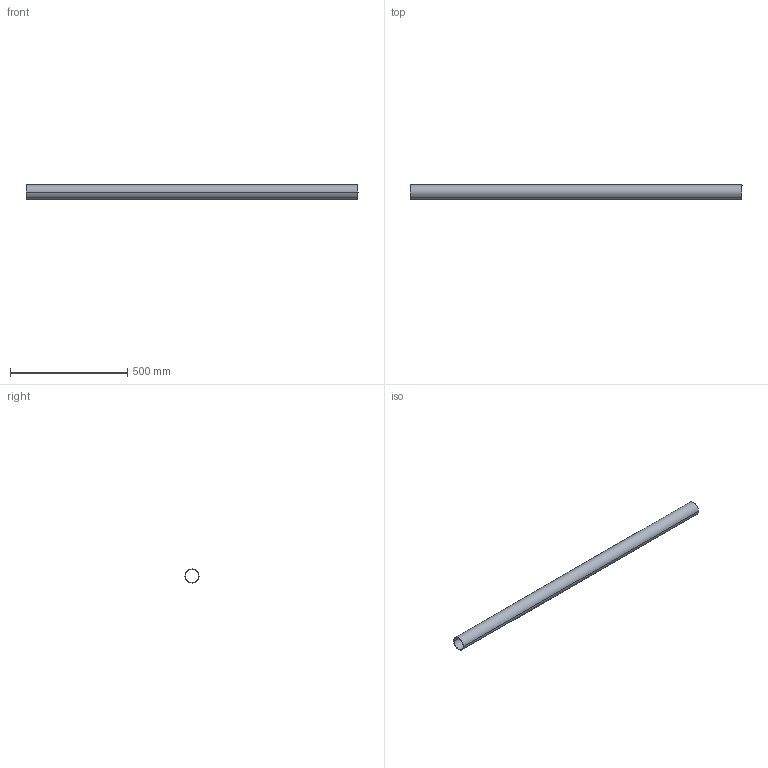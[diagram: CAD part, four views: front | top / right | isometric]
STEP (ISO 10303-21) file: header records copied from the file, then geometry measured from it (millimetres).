
FILE_DESCRIPTION(/* description */ ('(C) Elphel, Inc. 2012. Licensed under CERN OHL v.1.1 or later, see http://ohwr.org/cernohl'),/* implementation_level */ '2;1');
FILE_NAME(/* name */ '0353-25-14',/* time_stamp */ '2012-06-09T12:35:42-06:00',/* author */ (''),/* organization */ ('Elphel, Inc'),/* preprocessor_version */ 'ST-DEVELOPER v12',/* originating_system */ 'VariCAD 2012-1.04; kernel version (20100102)',/* authorisation */ '');
FILE_SCHEMA (('AUTOMOTIVE_DESIGN'));
Length unit declared in the file: millimetre
Products named in the file (1): Part
Bounding box: 1415.5 x 60.33 x 60.33 mm (x, y, z)
Volume: 708620.3 mm3; surface area: 512899.1 mm2
Topology: 1 solids, 1 shells, 6 faces, 12 edges, 8 vertices
Faces by surface type: cylinder 4, plane 2
Entity records: 195 total; most frequent: DIRECTION 36, CARTESIAN_POINT 28, ORIENTED_EDGE 24, AXIS2_PLACEMENT_3D 16, EDGE_CURVE 12, EDGE_LOOP 8, CIRCLE 8, VERTEX_POINT 8
